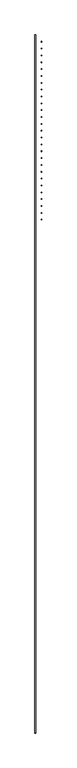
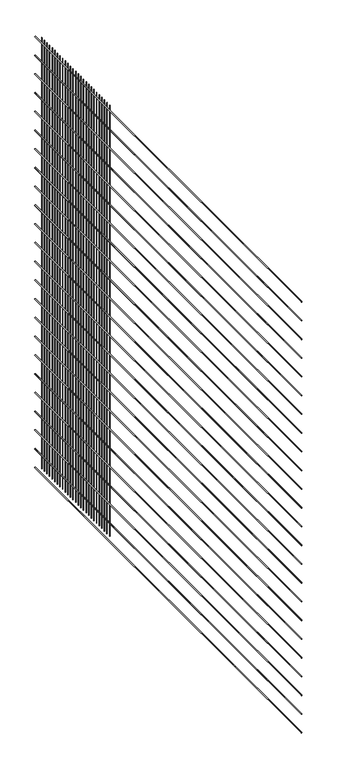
"""IFC4 building model written with IfcOpenShell, lengths in millimetres: railing geometry, Zaun."""

from ifc_helpers import new_model, si_unit, point, frame, frame_2d, origin, place, context, project, spatial, circle_curve, trimmed, segment, composite_curve, outline, extrude, source, transform, mapped, element, save


def railing_3c37f2a9(model_context):
    return source(origin(), model_context, "Body", "SweptSolid", [
        extrude(outline(composite_curve([segment(trimmed(circle_curve(frame_2d((3547.5, 46747.9264557)), 2.5), [point((3547.5, 46750.4264557))], [point((3547.5, 46745.4264557))], False, "CARTESIAN"), True, "CONTINUOUS"), segment(trimmed(circle_curve(frame_2d((3547.5, 46747.9264557)), 2.5), [point((3547.5, 46745.4264557))], [point((3547.5, 46750.4264557))], False, "CARTESIAN"), True, "CONTINUOUS")], self_intersect=False)), frame((0.0, -35673.7411465, 0.0), z_axis=(0.0, 1.0, 0.0), x_axis=(0.0, 0.0, 1.0)), (0.0, 0.0, 1.0), 3500.0),
        extrude(outline(composite_curve([segment(trimmed(circle_curve(frame_2d((3397.5, 46747.9264557)), 2.5), [point((3397.5, 46750.4264557))], [point((3397.5, 46745.4264557))], False, "CARTESIAN"), True, "CONTINUOUS"), segment(trimmed(circle_curve(frame_2d((3397.5, 46747.9264557)), 2.5), [point((3397.5, 46745.4264557))], [point((3397.5, 46750.4264557))], False, "CARTESIAN"), True, "CONTINUOUS")], self_intersect=False)), frame((0.0, -35673.7411465, 0.0), z_axis=(0.0, 1.0, 0.0), x_axis=(0.0, 0.0, 1.0)), (0.0, 0.0, 1.0), 3500.0),
        extrude(outline(composite_curve([segment(trimmed(circle_curve(frame_2d((3247.5, 46747.9264557)), 2.5), [point((3247.5, 46750.4264557))], [point((3247.5, 46745.4264557))], False, "CARTESIAN"), True, "CONTINUOUS"), segment(trimmed(circle_curve(frame_2d((3247.5, 46747.9264557)), 2.5), [point((3247.5, 46745.4264557))], [point((3247.5, 46750.4264557))], False, "CARTESIAN"), True, "CONTINUOUS")], self_intersect=False)), frame((0.0, -35673.7411465, 0.0), z_axis=(0.0, 1.0, 0.0), x_axis=(0.0, 0.0, 1.0)), (0.0, 0.0, 1.0), 3500.0),
        extrude(outline(composite_curve([segment(trimmed(circle_curve(frame_2d((3097.5, 46747.9264557)), 2.5), [point((3097.5, 46750.4264557))], [point((3097.5, 46745.4264557))], False, "CARTESIAN"), True, "CONTINUOUS"), segment(trimmed(circle_curve(frame_2d((3097.5, 46747.9264557)), 2.5), [point((3097.5, 46745.4264557))], [point((3097.5, 46750.4264557))], False, "CARTESIAN"), True, "CONTINUOUS")], self_intersect=False)), frame((0.0, -35673.7411465, 0.0), z_axis=(0.0, 1.0, 0.0), x_axis=(0.0, 0.0, 1.0)), (0.0, 0.0, 1.0), 3500.0),
        extrude(outline(composite_curve([segment(trimmed(circle_curve(frame_2d((2947.5, 46747.9264557)), 2.5), [point((2947.5, 46750.4264557))], [point((2947.5, 46745.4264557))], False, "CARTESIAN"), True, "CONTINUOUS"), segment(trimmed(circle_curve(frame_2d((2947.5, 46747.9264557)), 2.5), [point((2947.5, 46745.4264557))], [point((2947.5, 46750.4264557))], False, "CARTESIAN"), True, "CONTINUOUS")], self_intersect=False)), frame((0.0, -35673.7411465, 0.0), z_axis=(0.0, 1.0, 0.0), x_axis=(0.0, 0.0, 1.0)), (0.0, 0.0, 1.0), 3500.0),
        extrude(outline(composite_curve([segment(trimmed(circle_curve(frame_2d((2797.5, 46747.9264557)), 2.5), [point((2797.5, 46750.4264557))], [point((2797.5, 46745.4264557))], False, "CARTESIAN"), True, "CONTINUOUS"), segment(trimmed(circle_curve(frame_2d((2797.5, 46747.9264557)), 2.5), [point((2797.5, 46745.4264557))], [point((2797.5, 46750.4264557))], False, "CARTESIAN"), True, "CONTINUOUS")], self_intersect=False)), frame((0.0, -35673.7411465, 0.0), z_axis=(0.0, 1.0, 0.0), x_axis=(0.0, 0.0, 1.0)), (0.0, 0.0, 1.0), 3500.0),
        extrude(outline(composite_curve([segment(trimmed(circle_curve(frame_2d((2647.5, 46747.9264557)), 2.5), [point((2647.5, 46750.4264557))], [point((2647.5, 46745.4264557))], False, "CARTESIAN"), True, "CONTINUOUS"), segment(trimmed(circle_curve(frame_2d((2647.5, 46747.9264557)), 2.5), [point((2647.5, 46745.4264557))], [point((2647.5, 46750.4264557))], False, "CARTESIAN"), True, "CONTINUOUS")], self_intersect=False)), frame((0.0, -35673.7411465, 0.0), z_axis=(0.0, 1.0, 0.0), x_axis=(0.0, 0.0, 1.0)), (0.0, 0.0, 1.0), 3500.0),
        extrude(outline(composite_curve([segment(trimmed(circle_curve(frame_2d((2497.5, 46747.9264557)), 2.5), [point((2497.5, 46750.4264557))], [point((2497.5, 46745.4264557))], False, "CARTESIAN"), True, "CONTINUOUS"), segment(trimmed(circle_curve(frame_2d((2497.5, 46747.9264557)), 2.5), [point((2497.5, 46745.4264557))], [point((2497.5, 46750.4264557))], False, "CARTESIAN"), True, "CONTINUOUS")], self_intersect=False)), frame((0.0, -35673.7411465, 0.0), z_axis=(0.0, 1.0, 0.0), x_axis=(0.0, 0.0, 1.0)), (0.0, 0.0, 1.0), 3500.0),
        extrude(outline(composite_curve([segment(trimmed(circle_curve(frame_2d((2347.5, 46747.9264557)), 2.5), [point((2347.5, 46750.4264557))], [point((2347.5, 46745.4264557))], False, "CARTESIAN"), True, "CONTINUOUS"), segment(trimmed(circle_curve(frame_2d((2347.5, 46747.9264557)), 2.5), [point((2347.5, 46745.4264557))], [point((2347.5, 46750.4264557))], False, "CARTESIAN"), True, "CONTINUOUS")], self_intersect=False)), frame((0.0, -35673.7411465, 0.0), z_axis=(0.0, 1.0, 0.0), x_axis=(0.0, 0.0, 1.0)), (0.0, 0.0, 1.0), 3500.0),
        extrude(outline(composite_curve([segment(trimmed(circle_curve(frame_2d((2197.5, 46747.9264557)), 2.5), [point((2197.5, 46750.4264557))], [point((2197.5, 46745.4264557))], False, "CARTESIAN"), True, "CONTINUOUS"), segment(trimmed(circle_curve(frame_2d((2197.5, 46747.9264557)), 2.5), [point((2197.5, 46745.4264557))], [point((2197.5, 46750.4264557))], False, "CARTESIAN"), True, "CONTINUOUS")], self_intersect=False)), frame((0.0, -35673.7411465, 0.0), z_axis=(0.0, 1.0, 0.0), x_axis=(0.0, 0.0, 1.0)), (0.0, 0.0, 1.0), 3500.0),
        extrude(outline(composite_curve([segment(trimmed(circle_curve(frame_2d((2047.5, 46747.9264557)), 2.5), [point((2047.5, 46750.4264557))], [point((2047.5, 46745.4264557))], False, "CARTESIAN"), True, "CONTINUOUS"), segment(trimmed(circle_curve(frame_2d((2047.5, 46747.9264557)), 2.5), [point((2047.5, 46745.4264557))], [point((2047.5, 46750.4264557))], False, "CARTESIAN"), True, "CONTINUOUS")], self_intersect=False)), frame((0.0, -35673.7411465, 0.0), z_axis=(0.0, 1.0, 0.0), x_axis=(0.0, 0.0, 1.0)), (0.0, 0.0, 1.0), 3500.0),
        extrude(outline(composite_curve([segment(trimmed(circle_curve(frame_2d((1897.5, 46747.9264557)), 2.5), [point((1897.5, 46750.4264557))], [point((1897.5, 46745.4264557))], False, "CARTESIAN"), True, "CONTINUOUS"), segment(trimmed(circle_curve(frame_2d((1897.5, 46747.9264557)), 2.5), [point((1897.5, 46745.4264557))], [point((1897.5, 46750.4264557))], False, "CARTESIAN"), True, "CONTINUOUS")], self_intersect=False)), frame((0.0, -35673.7411465, 0.0), z_axis=(0.0, 1.0, 0.0), x_axis=(0.0, 0.0, 1.0)), (0.0, 0.0, 1.0), 3500.0),
        extrude(outline(composite_curve([segment(trimmed(circle_curve(frame_2d((1747.5, 46747.9264557)), 2.5), [point((1747.5, 46750.4264557))], [point((1747.5, 46745.4264557))], False, "CARTESIAN"), True, "CONTINUOUS"), segment(trimmed(circle_curve(frame_2d((1747.5, 46747.9264557)), 2.5), [point((1747.5, 46745.4264557))], [point((1747.5, 46750.4264557))], False, "CARTESIAN"), True, "CONTINUOUS")], self_intersect=False)), frame((0.0, -35673.7411465, 0.0), z_axis=(0.0, 1.0, 0.0), x_axis=(0.0, 0.0, 1.0)), (0.0, 0.0, 1.0), 3500.0),
        extrude(outline(composite_curve([segment(trimmed(circle_curve(frame_2d((1597.5, 46747.9264557)), 2.5), [point((1597.5, 46750.4264557))], [point((1597.5, 46745.4264557))], False, "CARTESIAN"), True, "CONTINUOUS"), segment(trimmed(circle_curve(frame_2d((1597.5, 46747.9264557)), 2.5), [point((1597.5, 46745.4264557))], [point((1597.5, 46750.4264557))], False, "CARTESIAN"), True, "CONTINUOUS")], self_intersect=False)), frame((0.0, -35673.7411465, 0.0), z_axis=(0.0, 1.0, 0.0), x_axis=(0.0, 0.0, 1.0)), (0.0, 0.0, 1.0), 3500.0),
        extrude(outline(composite_curve([segment(trimmed(circle_curve(frame_2d((1447.5, 46747.9264557)), 2.5), [point((1447.5, 46750.4264557))], [point((1447.5, 46745.4264557))], False, "CARTESIAN"), True, "CONTINUOUS"), segment(trimmed(circle_curve(frame_2d((1447.5, 46747.9264557)), 2.5), [point((1447.5, 46745.4264557))], [point((1447.5, 46750.4264557))], False, "CARTESIAN"), True, "CONTINUOUS")], self_intersect=False)), frame((0.0, -35673.7411465, 0.0), z_axis=(0.0, 1.0, 0.0), x_axis=(0.0, 0.0, 1.0)), (0.0, 0.0, 1.0), 3500.0),
        extrude(outline(composite_curve([segment(trimmed(circle_curve(frame_2d((1297.5, 46747.9264557)), 2.5), [point((1297.5, 46750.4264557))], [point((1297.5, 46745.4264557))], False, "CARTESIAN"), True, "CONTINUOUS"), segment(trimmed(circle_curve(frame_2d((1297.5, 46747.9264557)), 2.5), [point((1297.5, 46745.4264557))], [point((1297.5, 46750.4264557))], False, "CARTESIAN"), True, "CONTINUOUS")], self_intersect=False)), frame((0.0, -35673.7411465, 0.0), z_axis=(0.0, 1.0, 0.0), x_axis=(0.0, 0.0, 1.0)), (0.0, 0.0, 1.0), 3500.0),
        extrude(outline(composite_curve([segment(trimmed(circle_curve(frame_2d((1147.5, 46747.9264557)), 2.5), [point((1147.5, 46750.4264557))], [point((1147.5, 46745.4264557))], False, "CARTESIAN"), True, "CONTINUOUS"), segment(trimmed(circle_curve(frame_2d((1147.5, 46747.9264557)), 2.5), [point((1147.5, 46745.4264557))], [point((1147.5, 46750.4264557))], False, "CARTESIAN"), True, "CONTINUOUS")], self_intersect=False)), frame((0.0, -35673.7411465, 0.0), z_axis=(0.0, 1.0, 0.0), x_axis=(0.0, 0.0, 1.0)), (0.0, 0.0, 1.0), 3500.0),
        extrude(outline(composite_curve([segment(trimmed(circle_curve(frame_2d((997.5, 46747.9264557)), 2.5), [point((997.5, 46750.4264557))], [point((997.5, 46745.4264557))], False, "CARTESIAN"), True, "CONTINUOUS"), segment(trimmed(circle_curve(frame_2d((997.5, 46747.9264557)), 2.5), [point((997.5, 46745.4264557))], [point((997.5, 46750.4264557))], False, "CARTESIAN"), True, "CONTINUOUS")], self_intersect=False)), frame((0.0, -35673.7411465, 0.0), z_axis=(0.0, 1.0, 0.0), x_axis=(0.0, 0.0, 1.0)), (0.0, 0.0, 1.0), 3500.0),
        extrude(outline(composite_curve([segment(trimmed(circle_curve(frame_2d((847.5, 46747.9264557)), 2.5), [point((847.5, 46750.4264557))], [point((847.5, 46745.4264557))], False, "CARTESIAN"), True, "CONTINUOUS"), segment(trimmed(circle_curve(frame_2d((847.5, 46747.9264557)), 2.5), [point((847.5, 46745.4264557))], [point((847.5, 46750.4264557))], False, "CARTESIAN"), True, "CONTINUOUS")], self_intersect=False)), frame((0.0, -35673.7411465, 0.0), z_axis=(0.0, 1.0, 0.0), x_axis=(0.0, 0.0, 1.0)), (0.0, 0.0, 1.0), 3500.0),
        extrude(outline(composite_curve([segment(trimmed(circle_curve(frame_2d((697.5, 46747.9264557)), 2.5), [point((697.5, 46750.4264557))], [point((697.5, 46745.4264557))], False, "CARTESIAN"), True, "CONTINUOUS"), segment(trimmed(circle_curve(frame_2d((697.5, 46747.9264557)), 2.5), [point((697.5, 46745.4264557))], [point((697.5, 46750.4264557))], False, "CARTESIAN"), True, "CONTINUOUS")], self_intersect=False)), frame((0.0, -35673.7411465, 0.0), z_axis=(0.0, 1.0, 0.0), x_axis=(0.0, 0.0, 1.0)), (0.0, 0.0, 1.0), 3500.0),
        extrude(outline(composite_curve([segment(trimmed(circle_curve(frame_2d((547.5, 46747.9264557)), 2.5), [point((547.5, 46750.4264557))], [point((547.5, 46745.4264557))], False, "CARTESIAN"), True, "CONTINUOUS"), segment(trimmed(circle_curve(frame_2d((547.5, 46747.9264557)), 2.5), [point((547.5, 46745.4264557))], [point((547.5, 46750.4264557))], False, "CARTESIAN"), True, "CONTINUOUS")], self_intersect=False)), frame((0.0, -35673.7411465, 0.0), z_axis=(0.0, 1.0, 0.0), x_axis=(0.0, 0.0, 1.0)), (0.0, 0.0, 1.0), 3500.0),
        extrude(outline(composite_curve([segment(trimmed(circle_curve(frame_2d((397.5, 46747.9264557)), 2.5), [point((397.5, 46750.4264557))], [point((397.5, 46745.4264557))], False, "CARTESIAN"), True, "CONTINUOUS"), segment(trimmed(circle_curve(frame_2d((397.5, 46747.9264557)), 2.5), [point((397.5, 46745.4264557))], [point((397.5, 46750.4264557))], False, "CARTESIAN"), True, "CONTINUOUS")], self_intersect=False)), frame((0.0, -35673.7411465, 0.0), z_axis=(0.0, 1.0, 0.0), x_axis=(0.0, 0.0, 1.0)), (0.0, 0.0, 1.0), 3500.0),
        extrude(outline(composite_curve([segment(trimmed(circle_curve(frame_2d((247.5, 46747.9264557)), 2.5), [point((247.5, 46750.4264557))], [point((247.5, 46745.4264557))], False, "CARTESIAN"), True, "CONTINUOUS"), segment(trimmed(circle_curve(frame_2d((247.5, 46747.9264557)), 2.5), [point((247.5, 46745.4264557))], [point((247.5, 46750.4264557))], False, "CARTESIAN"), True, "CONTINUOUS")], self_intersect=False)), frame((0.0, -35673.7411465, 0.0), z_axis=(0.0, 1.0, 0.0), x_axis=(0.0, 0.0, 1.0)), (0.0, 0.0, 1.0), 3500.0),
        extrude(outline(composite_curve([segment(trimmed(circle_curve(frame_2d((97.5, 46747.9264557)), 2.5), [point((97.5, 46750.4264557))], [point((97.5, 46745.4264557))], False, "CARTESIAN"), True, "CONTINUOUS"), segment(trimmed(circle_curve(frame_2d((97.5, 46747.9264557)), 2.5), [point((97.5, 46745.4264557))], [point((97.5, 46750.4264557))], False, "CARTESIAN"), True, "CONTINUOUS")], self_intersect=False)), frame((0.0, -35673.7411465, 0.0), z_axis=(0.0, 1.0, 0.0), x_axis=(0.0, 0.0, 1.0)), (0.0, 0.0, 1.0), 3500.0),
        extrude(outline(composite_curve([segment(trimmed(circle_curve(frame_2d((46777.9264557, -32208.054872)), 1.5), [point((46776.4264557, -32208.054872))], [point((46779.4264557, -32208.054872))], False, "CARTESIAN"), True, "CONTINUOUS"), segment(trimmed(circle_curve(frame_2d((46777.9264557, -32208.054872)), 1.5), [point((46779.4264557, -32208.054872))], [point((46776.4264557, -32208.054872))], False, "CARTESIAN"), True, "CONTINUOUS")], self_intersect=False)), frame((0.0, 0.0, 100.0), z_axis=(0.0, 0.0, 1.0), x_axis=(1.0, 0.0, 0.0)), (0.0, 0.0, 1.0), 3450.0),
        extrude(outline(composite_curve([segment(trimmed(circle_curve(frame_2d((46777.9264557, -32242.3685975)), 1.5), [point((46776.4264557, -32242.3685975))], [point((46779.4264557, -32242.3685975))], False, "CARTESIAN"), True, "CONTINUOUS"), segment(trimmed(circle_curve(frame_2d((46777.9264557, -32242.3685975)), 1.5), [point((46779.4264557, -32242.3685975))], [point((46776.4264557, -32242.3685975))], False, "CARTESIAN"), True, "CONTINUOUS")], self_intersect=False)), frame((0.0, 0.0, 100.0), z_axis=(0.0, 0.0, 1.0), x_axis=(1.0, 0.0, 0.0)), (0.0, 0.0, 1.0), 3450.0),
        extrude(outline(composite_curve([segment(trimmed(circle_curve(frame_2d((46777.9264557, -32276.682323)), 1.5), [point((46776.4264557, -32276.682323))], [point((46779.4264557, -32276.682323))], False, "CARTESIAN"), True, "CONTINUOUS"), segment(trimmed(circle_curve(frame_2d((46777.9264557, -32276.682323)), 1.5), [point((46779.4264557, -32276.682323))], [point((46776.4264557, -32276.682323))], False, "CARTESIAN"), True, "CONTINUOUS")], self_intersect=False)), frame((0.0, 0.0, 100.0), z_axis=(0.0, 0.0, 1.0), x_axis=(1.0, 0.0, 0.0)), (0.0, 0.0, 1.0), 3450.0),
        extrude(outline(composite_curve([segment(trimmed(circle_curve(frame_2d((46777.9264557, -32310.9960485)), 1.5), [point((46776.4264557, -32310.9960485))], [point((46779.4264557, -32310.9960485))], False, "CARTESIAN"), True, "CONTINUOUS"), segment(trimmed(circle_curve(frame_2d((46777.9264557, -32310.9960485)), 1.5), [point((46779.4264557, -32310.9960485))], [point((46776.4264557, -32310.9960485))], False, "CARTESIAN"), True, "CONTINUOUS")], self_intersect=False)), frame((0.0, 0.0, 100.0), z_axis=(0.0, 0.0, 1.0), x_axis=(1.0, 0.0, 0.0)), (0.0, 0.0, 1.0), 3450.0),
        extrude(outline(composite_curve([segment(trimmed(circle_curve(frame_2d((46777.9264557, -32345.309774)), 1.5), [point((46776.4264557, -32345.309774))], [point((46779.4264557, -32345.309774))], False, "CARTESIAN"), True, "CONTINUOUS"), segment(trimmed(circle_curve(frame_2d((46777.9264557, -32345.309774)), 1.5), [point((46779.4264557, -32345.309774))], [point((46776.4264557, -32345.309774))], False, "CARTESIAN"), True, "CONTINUOUS")], self_intersect=False)), frame((0.0, 0.0, 100.0), z_axis=(0.0, 0.0, 1.0), x_axis=(1.0, 0.0, 0.0)), (0.0, 0.0, 1.0), 3450.0),
        extrude(outline(composite_curve([segment(trimmed(circle_curve(frame_2d((46777.9264557, -32379.6234994)), 1.5), [point((46776.4264557, -32379.6234994))], [point((46779.4264557, -32379.6234994))], False, "CARTESIAN"), True, "CONTINUOUS"), segment(trimmed(circle_curve(frame_2d((46777.9264557, -32379.6234994)), 1.5), [point((46779.4264557, -32379.6234994))], [point((46776.4264557, -32379.6234994))], False, "CARTESIAN"), True, "CONTINUOUS")], self_intersect=False)), frame((0.0, 0.0, 100.0), z_axis=(0.0, 0.0, 1.0), x_axis=(1.0, 0.0, 0.0)), (0.0, 0.0, 1.0), 3450.0),
        extrude(outline(composite_curve([segment(trimmed(circle_curve(frame_2d((46777.9264557, -32413.9372249)), 1.5), [point((46776.4264557, -32413.9372249))], [point((46779.4264557, -32413.9372249))], False, "CARTESIAN"), True, "CONTINUOUS"), segment(trimmed(circle_curve(frame_2d((46777.9264557, -32413.9372249)), 1.5), [point((46779.4264557, -32413.9372249))], [point((46776.4264557, -32413.9372249))], False, "CARTESIAN"), True, "CONTINUOUS")], self_intersect=False)), frame((0.0, 0.0, 100.0), z_axis=(0.0, 0.0, 1.0), x_axis=(1.0, 0.0, 0.0)), (0.0, 0.0, 1.0), 3450.0),
        extrude(outline(composite_curve([segment(trimmed(circle_curve(frame_2d((46777.9264557, -32448.2509504)), 1.5), [point((46776.4264557, -32448.2509504))], [point((46779.4264557, -32448.2509504))], False, "CARTESIAN"), True, "CONTINUOUS"), segment(trimmed(circle_curve(frame_2d((46777.9264557, -32448.2509504)), 1.5), [point((46779.4264557, -32448.2509504))], [point((46776.4264557, -32448.2509504))], False, "CARTESIAN"), True, "CONTINUOUS")], self_intersect=False)), frame((0.0, 0.0, 100.0), z_axis=(0.0, 0.0, 1.0), x_axis=(1.0, 0.0, 0.0)), (0.0, 0.0, 1.0), 3450.0),
        extrude(outline(composite_curve([segment(trimmed(circle_curve(frame_2d((46777.9264557, -32482.5646759)), 1.5), [point((46776.4264557, -32482.5646759))], [point((46779.4264557, -32482.5646759))], False, "CARTESIAN"), True, "CONTINUOUS"), segment(trimmed(circle_curve(frame_2d((46777.9264557, -32482.5646759)), 1.5), [point((46779.4264557, -32482.5646759))], [point((46776.4264557, -32482.5646759))], False, "CARTESIAN"), True, "CONTINUOUS")], self_intersect=False)), frame((0.0, 0.0, 100.0), z_axis=(0.0, 0.0, 1.0), x_axis=(1.0, 0.0, 0.0)), (0.0, 0.0, 1.0), 3450.0),
        extrude(outline(composite_curve([segment(trimmed(circle_curve(frame_2d((46777.9264557, -32516.8784014)), 1.5), [point((46776.4264557, -32516.8784014))], [point((46779.4264557, -32516.8784014))], False, "CARTESIAN"), True, "CONTINUOUS"), segment(trimmed(circle_curve(frame_2d((46777.9264557, -32516.8784014)), 1.5), [point((46779.4264557, -32516.8784014))], [point((46776.4264557, -32516.8784014))], False, "CARTESIAN"), True, "CONTINUOUS")], self_intersect=False)), frame((0.0, 0.0, 100.0), z_axis=(0.0, 0.0, 1.0), x_axis=(1.0, 0.0, 0.0)), (0.0, 0.0, 1.0), 3450.0),
        extrude(outline(composite_curve([segment(trimmed(circle_curve(frame_2d((46777.9264557, -32551.1921269)), 1.5), [point((46776.4264557, -32551.1921269))], [point((46779.4264557, -32551.1921269))], False, "CARTESIAN"), True, "CONTINUOUS"), segment(trimmed(circle_curve(frame_2d((46777.9264557, -32551.1921269)), 1.5), [point((46779.4264557, -32551.1921269))], [point((46776.4264557, -32551.1921269))], False, "CARTESIAN"), True, "CONTINUOUS")], self_intersect=False)), frame((0.0, 0.0, 100.0), z_axis=(0.0, 0.0, 1.0), x_axis=(1.0, 0.0, 0.0)), (0.0, 0.0, 1.0), 3450.0),
        extrude(outline(composite_curve([segment(trimmed(circle_curve(frame_2d((46777.9264557, -32585.5058524)), 1.5), [point((46776.4264557, -32585.5058524))], [point((46779.4264557, -32585.5058524))], False, "CARTESIAN"), True, "CONTINUOUS"), segment(trimmed(circle_curve(frame_2d((46777.9264557, -32585.5058524)), 1.5), [point((46779.4264557, -32585.5058524))], [point((46776.4264557, -32585.5058524))], False, "CARTESIAN"), True, "CONTINUOUS")], self_intersect=False)), frame((0.0, 0.0, 100.0), z_axis=(0.0, 0.0, 1.0), x_axis=(1.0, 0.0, 0.0)), (0.0, 0.0, 1.0), 3450.0),
        extrude(outline(composite_curve([segment(trimmed(circle_curve(frame_2d((46777.9264557, -32619.8195779)), 1.5), [point((46776.4264557, -32619.8195779))], [point((46779.4264557, -32619.8195779))], False, "CARTESIAN"), True, "CONTINUOUS"), segment(trimmed(circle_curve(frame_2d((46777.9264557, -32619.8195779)), 1.5), [point((46779.4264557, -32619.8195779))], [point((46776.4264557, -32619.8195779))], False, "CARTESIAN"), True, "CONTINUOUS")], self_intersect=False)), frame((0.0, 0.0, 100.0), z_axis=(0.0, 0.0, 1.0), x_axis=(1.0, 0.0, 0.0)), (0.0, 0.0, 1.0), 3450.0),
        extrude(outline(composite_curve([segment(trimmed(circle_curve(frame_2d((46777.9264557, -32654.1333034)), 1.5), [point((46776.4264557, -32654.1333034))], [point((46779.4264557, -32654.1333034))], False, "CARTESIAN"), True, "CONTINUOUS"), segment(trimmed(circle_curve(frame_2d((46777.9264557, -32654.1333034)), 1.5), [point((46779.4264557, -32654.1333034))], [point((46776.4264557, -32654.1333034))], False, "CARTESIAN"), True, "CONTINUOUS")], self_intersect=False)), frame((0.0, 0.0, 100.0), z_axis=(0.0, 0.0, 1.0), x_axis=(1.0, 0.0, 0.0)), (0.0, 0.0, 1.0), 3450.0),
        extrude(outline(composite_curve([segment(trimmed(circle_curve(frame_2d((46777.9264557, -32688.4470289)), 1.5), [point((46776.4264557, -32688.4470289))], [point((46779.4264557, -32688.4470289))], False, "CARTESIAN"), True, "CONTINUOUS"), segment(trimmed(circle_curve(frame_2d((46777.9264557, -32688.4470289)), 1.5), [point((46779.4264557, -32688.4470289))], [point((46776.4264557, -32688.4470289))], False, "CARTESIAN"), True, "CONTINUOUS")], self_intersect=False)), frame((0.0, 0.0, 100.0), z_axis=(0.0, 0.0, 1.0), x_axis=(1.0, 0.0, 0.0)), (0.0, 0.0, 1.0), 3450.0),
        extrude(outline(composite_curve([segment(trimmed(circle_curve(frame_2d((46777.9264557, -32722.7607543)), 1.5), [point((46776.4264557, -32722.7607543))], [point((46779.4264557, -32722.7607543))], False, "CARTESIAN"), True, "CONTINUOUS"), segment(trimmed(circle_curve(frame_2d((46777.9264557, -32722.7607543)), 1.5), [point((46779.4264557, -32722.7607543))], [point((46776.4264557, -32722.7607543))], False, "CARTESIAN"), True, "CONTINUOUS")], self_intersect=False)), frame((0.0, 0.0, 100.0), z_axis=(0.0, 0.0, 1.0), x_axis=(1.0, 0.0, 0.0)), (0.0, 0.0, 1.0), 3450.0),
        extrude(outline(composite_curve([segment(trimmed(circle_curve(frame_2d((46777.9264557, -32757.0744798)), 1.5), [point((46776.4264557, -32757.0744798))], [point((46779.4264557, -32757.0744798))], False, "CARTESIAN"), True, "CONTINUOUS"), segment(trimmed(circle_curve(frame_2d((46777.9264557, -32757.0744798)), 1.5), [point((46779.4264557, -32757.0744798))], [point((46776.4264557, -32757.0744798))], False, "CARTESIAN"), True, "CONTINUOUS")], self_intersect=False)), frame((0.0, 0.0, 100.0), z_axis=(0.0, 0.0, 1.0), x_axis=(1.0, 0.0, 0.0)), (0.0, 0.0, 1.0), 3450.0),
        extrude(outline(composite_curve([segment(trimmed(circle_curve(frame_2d((46777.9264557, -32791.3882053)), 1.5), [point((46776.4264557, -32791.3882053))], [point((46779.4264557, -32791.3882053))], False, "CARTESIAN"), True, "CONTINUOUS"), segment(trimmed(circle_curve(frame_2d((46777.9264557, -32791.3882053)), 1.5), [point((46779.4264557, -32791.3882053))], [point((46776.4264557, -32791.3882053))], False, "CARTESIAN"), True, "CONTINUOUS")], self_intersect=False)), frame((0.0, 0.0, 100.0), z_axis=(0.0, 0.0, 1.0), x_axis=(1.0, 0.0, 0.0)), (0.0, 0.0, 1.0), 3450.0),
        extrude(outline(composite_curve([segment(trimmed(circle_curve(frame_2d((46777.9264557, -32825.7019308)), 1.5), [point((46776.4264557, -32825.7019308))], [point((46779.4264557, -32825.7019308))], False, "CARTESIAN"), True, "CONTINUOUS"), segment(trimmed(circle_curve(frame_2d((46777.9264557, -32825.7019308)), 1.5), [point((46779.4264557, -32825.7019308))], [point((46776.4264557, -32825.7019308))], False, "CARTESIAN"), True, "CONTINUOUS")], self_intersect=False)), frame((0.0, 0.0, 100.0), z_axis=(0.0, 0.0, 1.0), x_axis=(1.0, 0.0, 0.0)), (0.0, 0.0, 1.0), 3450.0),
        extrude(outline(composite_curve([segment(trimmed(circle_curve(frame_2d((46777.9264557, -32860.0156563)), 1.5), [point((46776.4264557, -32860.0156563))], [point((46779.4264557, -32860.0156563))], False, "CARTESIAN"), True, "CONTINUOUS"), segment(trimmed(circle_curve(frame_2d((46777.9264557, -32860.0156563)), 1.5), [point((46779.4264557, -32860.0156563))], [point((46776.4264557, -32860.0156563))], False, "CARTESIAN"), True, "CONTINUOUS")], self_intersect=False)), frame((0.0, 0.0, 100.0), z_axis=(0.0, 0.0, 1.0), x_axis=(1.0, 0.0, 0.0)), (0.0, 0.0, 1.0), 3450.0),
        extrude(outline(composite_curve([segment(trimmed(circle_curve(frame_2d((46777.9264557, -32894.3293818)), 1.5), [point((46776.4264557, -32894.3293818))], [point((46779.4264557, -32894.3293818))], False, "CARTESIAN"), True, "CONTINUOUS"), segment(trimmed(circle_curve(frame_2d((46777.9264557, -32894.3293818)), 1.5), [point((46779.4264557, -32894.3293818))], [point((46776.4264557, -32894.3293818))], False, "CARTESIAN"), True, "CONTINUOUS")], self_intersect=False)), frame((0.0, 0.0, 100.0), z_axis=(0.0, 0.0, 1.0), x_axis=(1.0, 0.0, 0.0)), (0.0, 0.0, 1.0), 3450.0),
        extrude(outline(composite_curve([segment(trimmed(circle_curve(frame_2d((46777.9264557, -32928.6431073)), 1.5), [point((46776.4264557, -32928.6431073))], [point((46779.4264557, -32928.6431073))], False, "CARTESIAN"), True, "CONTINUOUS"), segment(trimmed(circle_curve(frame_2d((46777.9264557, -32928.6431073)), 1.5), [point((46779.4264557, -32928.6431073))], [point((46776.4264557, -32928.6431073))], False, "CARTESIAN"), True, "CONTINUOUS")], self_intersect=False)), frame((0.0, 0.0, 100.0), z_axis=(0.0, 0.0, 1.0), x_axis=(1.0, 0.0, 0.0)), (0.0, 0.0, 1.0), 3450.0),
        extrude(outline(composite_curve([segment(trimmed(circle_curve(frame_2d((46777.9264557, -32962.9568328)), 1.5), [point((46776.4264557, -32962.9568328))], [point((46779.4264557, -32962.9568328))], False, "CARTESIAN"), True, "CONTINUOUS"), segment(trimmed(circle_curve(frame_2d((46777.9264557, -32962.9568328)), 1.5), [point((46779.4264557, -32962.9568328))], [point((46776.4264557, -32962.9568328))], False, "CARTESIAN"), True, "CONTINUOUS")], self_intersect=False)), frame((0.0, 0.0, 100.0), z_axis=(0.0, 0.0, 1.0), x_axis=(1.0, 0.0, 0.0)), (0.0, 0.0, 1.0), 3450.0),
        extrude(outline(composite_curve([segment(trimmed(circle_curve(frame_2d((46777.9264557, -32997.2705583)), 1.5), [point((46776.4264557, -32997.2705583))], [point((46779.4264557, -32997.2705583))], False, "CARTESIAN"), True, "CONTINUOUS"), segment(trimmed(circle_curve(frame_2d((46777.9264557, -32997.2705583)), 1.5), [point((46779.4264557, -32997.2705583))], [point((46776.4264557, -32997.2705583))], False, "CARTESIAN"), True, "CONTINUOUS")], self_intersect=False)), frame((0.0, 0.0, 100.0), z_axis=(0.0, 0.0, 1.0), x_axis=(1.0, 0.0, 0.0)), (0.0, 0.0, 1.0), 3450.0),
        extrude(outline(composite_curve([segment(trimmed(circle_curve(frame_2d((46777.9264557, -33031.5842838)), 1.5), [point((46776.4264557, -33031.5842838))], [point((46779.4264557, -33031.5842838))], False, "CARTESIAN"), True, "CONTINUOUS"), segment(trimmed(circle_curve(frame_2d((46777.9264557, -33031.5842838)), 1.5), [point((46779.4264557, -33031.5842838))], [point((46776.4264557, -33031.5842838))], False, "CARTESIAN"), True, "CONTINUOUS")], self_intersect=False)), frame((0.0, 0.0, 100.0), z_axis=(0.0, 0.0, 1.0), x_axis=(1.0, 0.0, 0.0)), (0.0, 0.0, 1.0), 3450.0),
        extrude(outline(composite_curve([segment(trimmed(circle_curve(frame_2d((46777.9264557, -33065.8980092)), 1.5), [point((46776.4264557, -33065.8980092))], [point((46779.4264557, -33065.8980092))], False, "CARTESIAN"), True, "CONTINUOUS"), segment(trimmed(circle_curve(frame_2d((46777.9264557, -33065.8980092)), 1.5), [point((46779.4264557, -33065.8980092))], [point((46776.4264557, -33065.8980092))], False, "CARTESIAN"), True, "CONTINUOUS")], self_intersect=False)), frame((0.0, 0.0, 100.0), z_axis=(0.0, 0.0, 1.0), x_axis=(1.0, 0.0, 0.0)), (0.0, 0.0, 1.0), 3450.0),
        extrude(outline(composite_curve([segment(trimmed(circle_curve(frame_2d((46777.9264557, -33100.2117347)), 1.5), [point((46776.4264557, -33100.2117347))], [point((46779.4264557, -33100.2117347))], False, "CARTESIAN"), True, "CONTINUOUS"), segment(trimmed(circle_curve(frame_2d((46777.9264557, -33100.2117347)), 1.5), [point((46779.4264557, -33100.2117347))], [point((46776.4264557, -33100.2117347))], False, "CARTESIAN"), True, "CONTINUOUS")], self_intersect=False)), frame((0.0, 0.0, 100.0), z_axis=(0.0, 0.0, 1.0), x_axis=(1.0, 0.0, 0.0)), (0.0, 0.0, 1.0), 3450.0),
    ])


if __name__ == "__main__":
    model = new_model("IFC4")
    model_context = context("Model", 3, world=origin())
    ifc_project = project(units=[si_unit("LENGTHUNIT", "METRE", prefix="MILLI")], contexts=[model_context])
    site = spatial("IfcSite", under=ifc_project)
    building = spatial("IfcBuilding", under=site)
    placement = place(None, origin())
    railing_shape = railing_3c37f2a9(model_context)
    element("IfcRailing", 1, ObjectType="Zaun", at=placement, inside=building, context=model_context, shape_type="MappedRepresentation", body=[
        mapped(railing_shape, transform((0.0, 0.0, 0.0), x_axis=(1.0, 0.0, 0.0), y_axis=(0.0, 1.0, 0.0), z_axis=(0.0, 0.0, 1.0))),
    ])
    save(model, "model.ifc")
